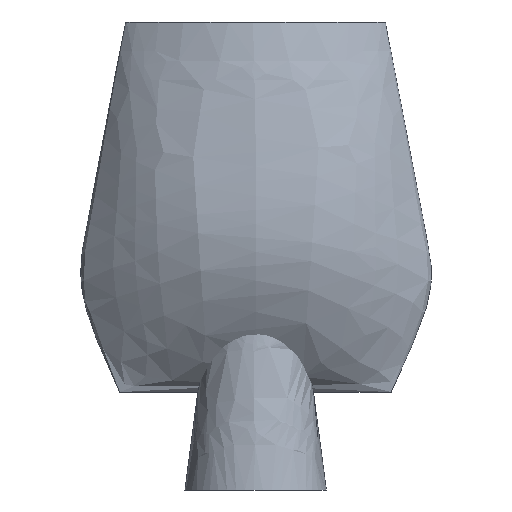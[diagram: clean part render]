
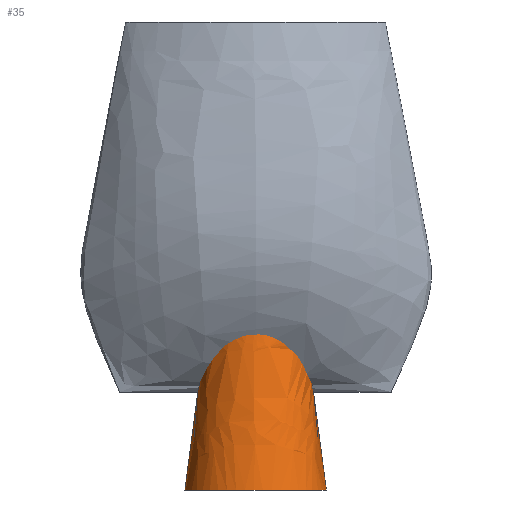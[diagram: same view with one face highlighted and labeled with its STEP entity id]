
A CAD part, front view. The second image highlights one B-rep face of the part: STEP entity #35.
In plain terms, the highlighted free-form (B-spline) face has degree [2, 1] with [5, 2] control points.
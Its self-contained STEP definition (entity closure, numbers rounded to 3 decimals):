
#35=ADVANCED_FACE('',(#45),#167,.T.);
#45=FACE_OUTER_BOUND('',#55,.T.);
#55=EDGE_LOOP('',(#73,#74,#75,#76,#77,#78));
#73=ORIENTED_EDGE('',*,*,#106,.T.);
#74=ORIENTED_EDGE('',*,*,#100,.T.);
#75=ORIENTED_EDGE('',*,*,#102,.F.);
#76=ORIENTED_EDGE('',*,*,#103,.F.);
#77=ORIENTED_EDGE('',*,*,#107,.F.);
#78=ORIENTED_EDGE('',*,*,#105,.F.);
#100=EDGE_CURVE('',#149,#150,#124,.T.);
#102=EDGE_CURVE('',#152,#150,#126,.T.);
#103=EDGE_CURVE('',#151,#152,#127,.T.);
#105=EDGE_CURVE('',#153,#154,#147,.T.);
#106=EDGE_CURVE('',#153,#149,#148,.T.);
#107=EDGE_CURVE('',#154,#151,#129,.T.);
#124=B_SPLINE_CURVE_WITH_KNOTS('',1,(#240,#241),.UNSPECIFIED.,.F.,.F.,(2,
2),(0.,60.466),.UNSPECIFIED.);
#126=B_SPLINE_CURVE_WITH_KNOTS('',3,(#271,#272,#273,#274),.UNSPECIFIED.,
 .F.,.F.,(4,4),(0.,0.412),.UNSPECIFIED.);
#127=B_SPLINE_CURVE_WITH_KNOTS('',3,(#275,#276,#277,#278,#279,#280,#281,
#282,#283,#284,#285,#286,#287,#288,#289,#290,#291,#292,#293,#294,#295,#296,
#297,#298,#299,#300,#301,#302,#303),.UNSPECIFIED.,.F.,.F.,(4,2,2,2,3,2,
3,2,3,2,2,2,4),(0.,14.717,29.43,44.16,58.883,
79.708,100.89,122.071,142.897,157.62,
172.349,187.062,201.78),.UNSPECIFIED.);
#129=B_SPLINE_CURVE_WITH_KNOTS('',3,(#313,#314,#315,#316),.UNSPECIFIED.,
 .F.,.F.,(4,4),(202.302,202.713),.UNSPECIFIED.);
#147=(
BOUNDED_CURVE()
B_SPLINE_CURVE(1,(#306,#307),.UNSPECIFIED.,.F.,.F.)
B_SPLINE_CURVE_WITH_KNOTS((2,2),(0.,60.466),.UNSPECIFIED.)
CURVE()
GEOMETRIC_REPRESENTATION_ITEM()
RATIONAL_B_SPLINE_CURVE((1.,1.))
REPRESENTATION_ITEM('')
);
#148=(
BOUNDED_CURVE()
B_SPLINE_CURVE(2,(#308,#309,#310,#311,#312),.UNSPECIFIED.,.F.,.F.)
B_SPLINE_CURVE_WITH_KNOTS((3,2,3),(3.142,4.712,6.283),
 .UNSPECIFIED.)
CURVE()
GEOMETRIC_REPRESENTATION_ITEM()
RATIONAL_B_SPLINE_CURVE((1.,0.707,1.,0.707,1.))
REPRESENTATION_ITEM('')
);
#149=VERTEX_POINT('',#229);
#150=VERTEX_POINT('',#230);
#151=VERTEX_POINT('',#231);
#152=VERTEX_POINT('',#232);
#153=VERTEX_POINT('',#233);
#154=VERTEX_POINT('',#234);
#167=(
BOUNDED_SURFACE()
B_SPLINE_SURFACE(2,1,((#219,#220),(#221,#222),(#223,#224),(#225,#226),(#227,
#228)),.UNSPECIFIED.,.F.,.F.,.F.)
B_SPLINE_SURFACE_WITH_KNOTS((3,2,3),(2,2),(3.142,4.712,
6.283),(0.,143.641),.UNSPECIFIED.)
GEOMETRIC_REPRESENTATION_ITEM()
RATIONAL_B_SPLINE_SURFACE(((1.,1.),(0.707,0.707),
(1.,1.),(0.707,0.707),(1.,1.)))
REPRESENTATION_ITEM('')
SURFACE()
);
#219=CARTESIAN_POINT('',(-151.755,73.437,-3.8));
#220=CARTESIAN_POINT('',(-112.375,73.437,295.176));
#221=CARTESIAN_POINT('',(-151.755,-9.926,-3.8));
#222=CARTESIAN_POINT('',(-112.375,26.32,295.176));
#223=CARTESIAN_POINT('',(-61.182,-9.926,-3.8));
#224=CARTESIAN_POINT('',(-61.182,26.32,295.176));
#225=CARTESIAN_POINT('',(29.391,-9.926,-3.8));
#226=CARTESIAN_POINT('',(-9.989,26.32,295.176));
#227=CARTESIAN_POINT('',(29.391,73.437,-3.8));
#228=CARTESIAN_POINT('',(-9.989,73.437,295.176));
#229=CARTESIAN_POINT('',(29.391,73.437,-3.8));
#230=CARTESIAN_POINT('',(12.814,73.437,122.054));
#231=CARTESIAN_POINT('',(-135.232,73.113,121.633));
#232=CARTESIAN_POINT('',(12.868,73.113,121.633));
#233=CARTESIAN_POINT('',(-151.755,73.437,-3.8));
#234=CARTESIAN_POINT('',(-135.178,73.437,122.054));
#240=CARTESIAN_POINT('',(29.391,73.437,-3.8));
#241=CARTESIAN_POINT('',(12.814,73.437,122.054));
#271=CARTESIAN_POINT('',(12.868,73.113,121.633));
#272=CARTESIAN_POINT('',(12.85,73.221,121.773));
#273=CARTESIAN_POINT('',(12.832,73.329,121.914));
#274=CARTESIAN_POINT('',(12.814,73.437,122.054));
#275=CARTESIAN_POINT('',(-135.232,73.113,121.633));
#276=CARTESIAN_POINT('',(-134.554,69.272,126.634));
#277=CARTESIAN_POINT('',(-133.524,65.439,131.622));
#278=CARTESIAN_POINT('',(-130.73,57.891,141.448));
#279=CARTESIAN_POINT('',(-128.957,54.149,146.319));
#280=CARTESIAN_POINT('',(-124.608,46.853,155.815));
#281=CARTESIAN_POINT('',(-122.011,43.267,160.484));
#282=CARTESIAN_POINT('',(-115.914,36.41,169.408));
#283=CARTESIAN_POINT('',(-112.377,33.099,173.718));
#284=CARTESIAN_POINT('',(-108.323,30.049,177.689));
#285=CARTESIAN_POINT('',(-102.63,25.765,183.265));
#286=CARTESIAN_POINT('',(-95.784,21.899,188.297));
#287=CARTESIAN_POINT('',(-79.715,16.213,195.699));
#288=CARTESIAN_POINT('',(-70.708,14.526,197.894));
#289=CARTESIAN_POINT('',(-61.182,14.526,197.894));
#290=CARTESIAN_POINT('',(-51.657,14.526,197.894));
#291=CARTESIAN_POINT('',(-42.65,16.213,195.699));
#292=CARTESIAN_POINT('',(-26.58,21.899,188.297));
#293=CARTESIAN_POINT('',(-19.734,25.765,183.265));
#294=CARTESIAN_POINT('',(-14.041,30.049,177.689));
#295=CARTESIAN_POINT('',(-9.987,33.099,173.718));
#296=CARTESIAN_POINT('',(-6.45,36.41,169.408));
#297=CARTESIAN_POINT('',(-0.353,43.267,160.484));
#298=CARTESIAN_POINT('',(2.244,46.853,155.815));
#299=CARTESIAN_POINT('',(6.593,54.149,146.319));
#300=CARTESIAN_POINT('',(8.366,57.891,141.448));
#301=CARTESIAN_POINT('',(11.159,65.439,131.622));
#302=CARTESIAN_POINT('',(12.19,69.272,126.634));
#303=CARTESIAN_POINT('',(12.868,73.113,121.633));
#306=CARTESIAN_POINT('',(-151.755,73.437,-3.8));
#307=CARTESIAN_POINT('',(-135.178,73.437,122.054));
#308=CARTESIAN_POINT('',(-151.755,73.437,-3.8));
#309=CARTESIAN_POINT('',(-151.755,-9.926,-3.8));
#310=CARTESIAN_POINT('',(-61.182,-9.926,-3.8));
#311=CARTESIAN_POINT('',(29.391,-9.926,-3.8));
#312=CARTESIAN_POINT('',(29.391,73.437,-3.8));
#313=CARTESIAN_POINT('',(-135.178,73.437,122.054));
#314=CARTESIAN_POINT('',(-135.196,73.329,121.914));
#315=CARTESIAN_POINT('',(-135.215,73.221,121.773));
#316=CARTESIAN_POINT('',(-135.232,73.113,121.633));
